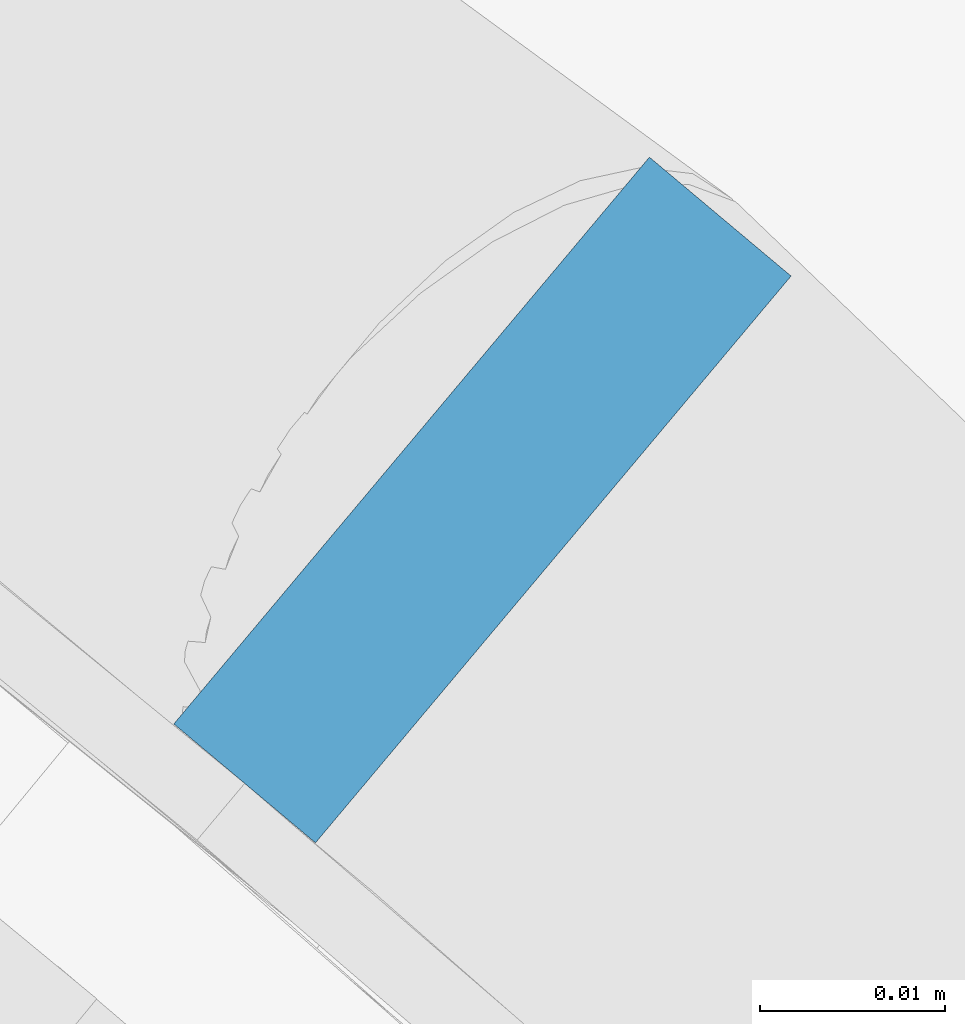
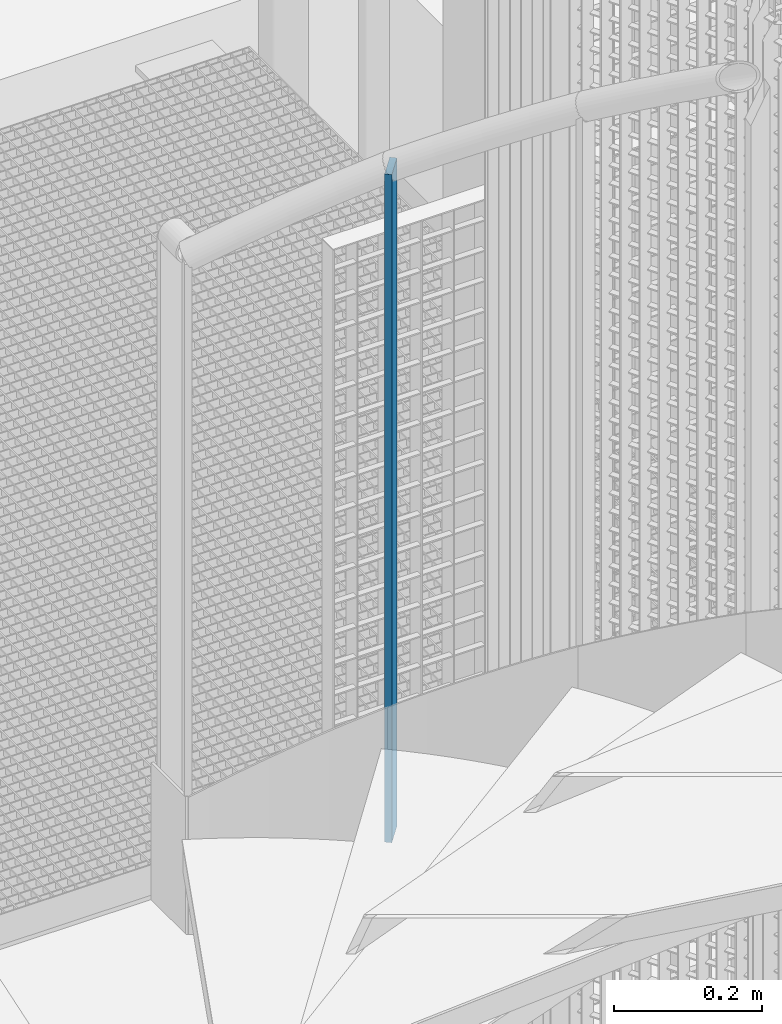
# One storey, part 48 of 1148: 1 column, 1 element without a shape of its own.
"""IFC2X3 building model written with IfcOpenShell, lengths in millimetres."""

from ifc_helpers import new_model, si_unit, frame, origin_with_axes, origin_2d_with_axis, place, context, subcontext, project, spatial, rectangle, extrude, material, type_object, element, aggregate, save


model = new_model("IFC2X3")

# Units and contexts
model_context = context("Model", 3, precision=1e-05, world=origin_with_axes())
body_context = subcontext(model_context, "Body", "Model", "MODEL_VIEW")
ifc_project = project(units=[si_unit("LENGTHUNIT", "METRE", prefix="MILLI"), si_unit("AREAUNIT", "SQUARE_METRE"), si_unit("VOLUMEUNIT", "CUBIC_METRE"), si_unit("MASSUNIT", "GRAM", prefix="KILO"), si_unit("TIMEUNIT", "SECOND"), si_unit("PLANEANGLEUNIT", "RADIAN"), si_unit("SOLIDANGLEUNIT", "STERADIAN"), si_unit("THERMODYNAMICTEMPERATUREUNIT", "DEGREE_CELSIUS"), si_unit("LUMINOUSINTENSITYUNIT", "LUMEN")], contexts=[model_context])

# Site, building, storey
site_placement = place(None, origin_with_axes())
site = spatial("IfcSite", under=ifc_project, at=site_placement, Name="Undefined", CompositionType="ELEMENT")
building_placement = place(site_placement, origin_with_axes())
building = spatial("IfcBuilding", under=site, at=building_placement, Name="Undefined", CompositionType="ELEMENT")
storey_placement = place(building_placement, origin_with_axes())
storey = spatial("IfcBuildingStorey", under=building, at=storey_placement, Name="Undefined", CompositionType="ELEMENT", Elevation=0.0)

# Assembly, column
assembly_placement = place(storey_placement, origin_with_axes())
assembly = element("IfcElementAssembly", 1, at=assembly_placement, inside=storey, Name="MONTANT", AssemblyPlace="NOTDEFINED", PredefinedType="NOTDEFINED")
ifc_material = material(Name="STEEL/S235JR")
column_type = type_object("IfcColumnType", Name="PL10*40", PredefinedType="NOTDEFINED")
column_placement = place(assembly_placement, frame((22277.4981406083, 807.410843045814, 10246.52), z_axis=(0.0, 0.0, 1.0), x_axis=(-0.642787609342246, -0.766044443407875, 0.0)))
column = element("IfcColumn", 2, at=column_placement, type_object=column_type, material=ifc_material, Name="MONTANT", context=body_context, shape_type="SweptSolid", body=[
    extrude(rectangle(XDim=10.0, YDim=40.0, at=origin_2d_with_axis()), frame((0.0, 0.0, 1100.0), z_axis=(0.0, 0.0, -1.0), x_axis=(0.0, 1.0, 0.0)), (0.0, 0.0, 1.0), 1100.0),
])
aggregate(assembly, [column])

save(model, "model.ifc")
